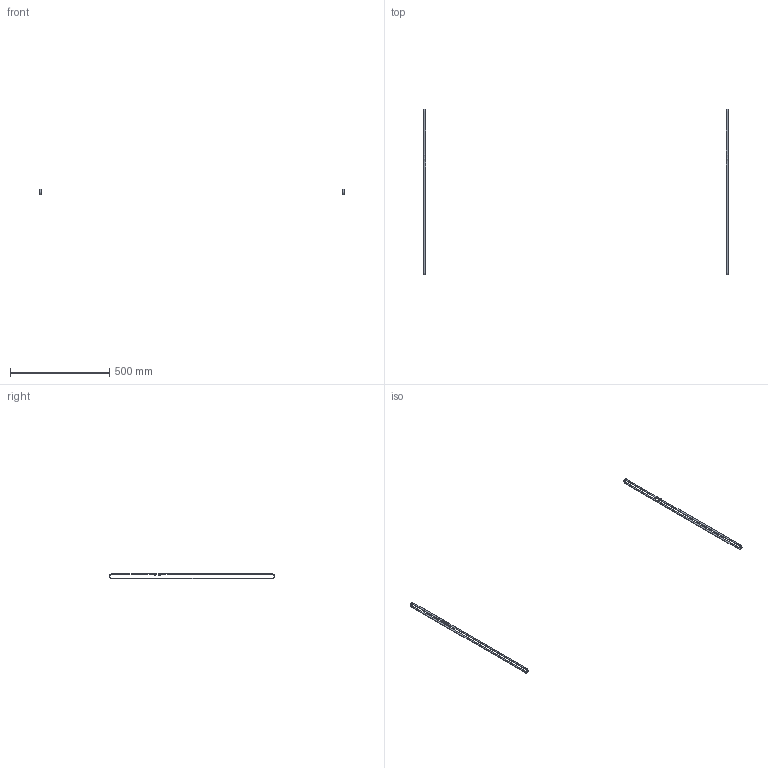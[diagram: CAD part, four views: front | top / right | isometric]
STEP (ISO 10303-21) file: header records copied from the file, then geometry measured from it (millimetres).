
FILE_DESCRIPTION(/* description */ (''),/* implementation_level */ '2;1');
FILE_NAME(/* name */ 'Y-CD03~1',/* time_stamp */ '2014-02-14T19:43:48+01:00',/* author */ (''),/* organization */ (''),/* preprocessor_version */ 'ST-DEVELOPER v14',/* originating_system */ '',/* authorisation */ '');
FILE_SCHEMA (('AUTOMOTIVE_DESIGN'));
Length unit declared in the file: millimetre
Products named in the file (1): Document
Bounding box: 1531.83 x 833.96 x 27 mm (x, y, z)
Surface area: 78895.9 mm2 (no closed solid volume)
Topology: 0 solids, 14 shells, 68 faces, 192 edges, 128 vertices
Faces by surface type: plane 36, bspline 32
Entity records: 5383 total; most frequent: CARTESIAN_POINT 3134, B_SPLINE_CURVE_WITH_KNOTS 368, ORIENTED_EDGE 288, PCURVE 288, DEFINITIONAL_REPRESENTATION 288, SURFACE_CURVE 192, EDGE_CURVE 192, VERTEX_POINT 128
